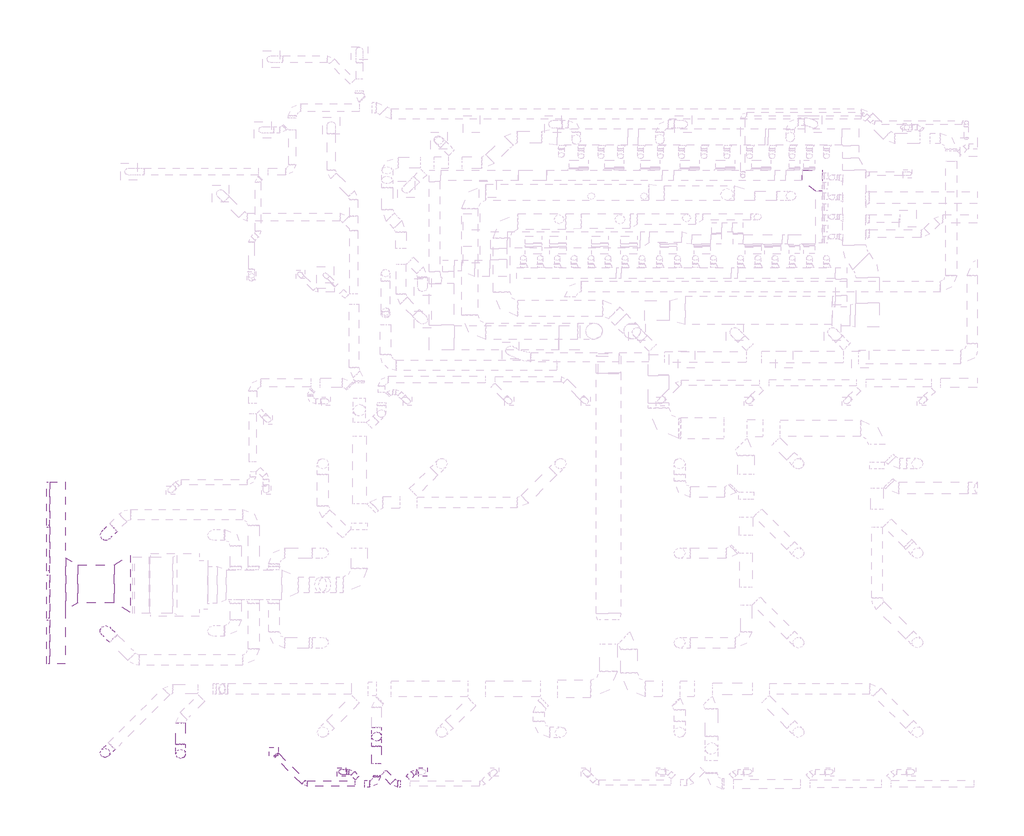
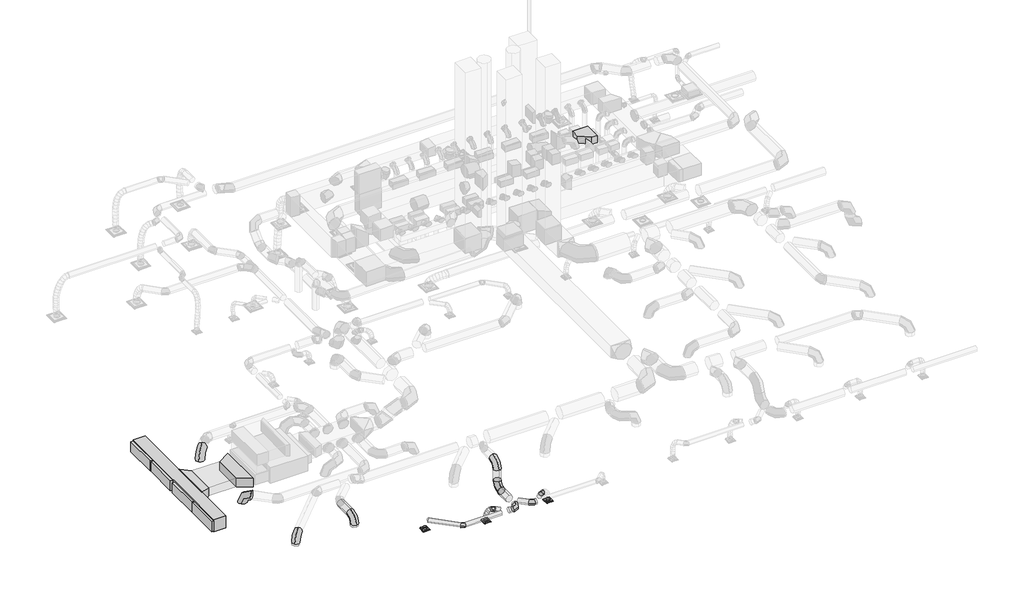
# One storey, part 1 of 33: 19 duct segments, 15 duct fittings, 7 air terminals.
"""IFC4 building model written with IfcOpenShell, lengths in millimetres."""

from ifc_helpers import new_model, si_unit, point, frame, frame_2d, origin, place, context, project, spatial, polyline, circle_curve, ellipse_curve, trimmed, segment, composite_curve, outline, extrude, transform, mapped, element, save
from ifc_brep_helpers import plane_surface, cylinder_surface, advanced_brep
from components import air_terminal_0721d01d, louver_louver_98c66642, louver1_louver_e51e7086, louver2_louver_de2036d3, custom_duct_fitting_1_custom_duct_fitting_1_5f1720c7, plenum_plenum_7b1017f3, rectangular_transition_angle_60_degree_48101eff, rectangular_transition_angle_60_degree_7abde47e, round_elbow_1_d_8aca8b6e, round_elbow_1_d_a89bf638, round_elbow_1_d_ea3dccb8, round_elbow_1_d_6fec3262, round_elbow_1_d_ab3aa7ba

model = new_model("IFC4")

# Units and contexts
model_context = context("Model", 3, world=origin())
ifc_project = project(units=[si_unit("LENGTHUNIT", "METRE", prefix="MILLI")], contexts=[model_context])

# Site, building, storey
site = spatial("IfcSite", under=ifc_project)
building = spatial("IfcBuilding", under=site)
storey = spatial("IfcBuildingStorey", under=building, Name="T.O. SLAB - 1ST", Elevation=-25.4)

# Air terminals
placement = place(None, origin())
air_terminal_shape = air_terminal_0721d01d(model_context)
element("IfcAirTerminal", 1, ObjectType="Titus-Round_Neck_Supply_Diffuser-PCS_Surface_Mount : PCS AA-08_12x12", at=placement, inside=storey, context=model_context, shape_type="MappedRepresentation", body=[
    mapped(air_terminal_shape, transform((11461.721449, 6517.7064145, 3022.6), x_axis=(1.0, 0.0, 0.0), y_axis=(0.0, -1.0, 0.0), z_axis=(0.0, 0.0, -1.0))),
])
element("IfcAirTerminal", 2, ObjectType="Titus-Round_Neck_Supply_Diffuser-PCS_Surface_Mount : PCS AA-08_12x12", at=placement, inside=storey, context=model_context, shape_type="MappedRepresentation", body=[
    mapped(air_terminal_shape, transform((8423.246449, 6517.7064145, 3022.6), x_axis=(1.0, 0.0, 0.0), y_axis=(0.0, -1.0, 0.0), z_axis=(0.0, 0.0, -1.0))),
])
element("IfcAirTerminal", 3, ObjectType="Titus-Round_Neck_Supply_Diffuser-PCS_Surface_Mount : PCS AA-08_12x12", at=placement, inside=storey, context=model_context, shape_type="MappedRepresentation", body=[
    mapped(air_terminal_shape, transform((5880.0982101, 7276.7425883, 3035.3), x_axis=(1.0, 0.0, 0.0), y_axis=(0.0, -1.0, 0.0), z_axis=(0.0, 0.0, -1.0))),
])
louver_louver_shape = louver_louver_98c66642(model_context)
element("IfcAirTerminal", 4, ObjectType="Louver : Louver", at=placement, inside=storey, context=model_context, shape_type="MappedRepresentation", body=[
    mapped(louver_louver_shape, transform((0.0, 0.0, 0.0), x_axis=(1.0, 0.0, 0.0), y_axis=(0.0, 1.0, 0.0), z_axis=(0.0, 0.0, 1.0))),
])
louver1_louver_shape = louver1_louver_e51e7086(model_context)
element("IfcAirTerminal", 5, ObjectType="Louver1 : Louver", at=placement, inside=storey, context=model_context, shape_type="MappedRepresentation", body=[
    mapped(louver1_louver_shape, transform((0.0, -1637.274587, 0.0), x_axis=(1.0, 0.0, 0.0), y_axis=(0.0, 1.0, 0.0), z_axis=(0.0, 0.0, 1.0))),
])
louver2_louver_shape = louver2_louver_de2036d3(model_context)
element("IfcAirTerminal", 6, ObjectType="Louver2 : Louver", at=placement, inside=storey, context=model_context, shape_type="MappedRepresentation", body=[
    mapped(louver2_louver_shape, transform((0.0, -3477.749174, 0.0), x_axis=(1.0, 0.0, 0.0), y_axis=(0.0, 1.0, 0.0), z_axis=(0.0, 0.0, 1.0))),
])
element("IfcAirTerminal", 7, ObjectType="Louver3 : Louver", at=placement, inside=storey, context=model_context, shape_type="MappedRepresentation", body=[
    mapped(louver1_louver_shape, transform((0.0, -5115.023761, 0.0), x_axis=(1.0, 0.0, 0.0), y_axis=(0.0, 1.0, 0.0), z_axis=(0.0, 0.0, 1.0))),
])

# Duct fittings
custom_duct_fitting_1_custom_duct_fitting_1_shape = custom_duct_fitting_1_custom_duct_fitting_1_5f1720c7(model_context)
element("IfcDuctFitting", 8, ObjectType="Custom Duct Fitting 1 : Custom Duct Fitting 1", at=placement, inside=storey, context=model_context, shape_type="MappedRepresentation", body=[
    mapped(custom_duct_fitting_1_custom_duct_fitting_1_shape, transform((0.0, 0.0, 3101.34), x_axis=(1.0, 0.0, 0.0), y_axis=(0.0, 1.0, 0.0), z_axis=(0.0, 0.0, 1.0))),
])
plenum_plenum_shape = plenum_plenum_7b1017f3(model_context)
element("IfcDuctFitting", 9, ObjectType="Plenum : Plenum", at=placement, inside=storey, context=model_context, shape_type="MappedRepresentation", body=[
    mapped(plenum_plenum_shape, transform((0.0, 0.0, 0.0), x_axis=(1.0, 0.0, 0.0), y_axis=(0.0, 1.0, 0.0), z_axis=(0.0, 0.0, 1.0))),
])
rectangular_transition_angle_60_degree_shape = rectangular_transition_angle_60_degree_48101eff(model_context)
element("IfcDuctFitting", 10, ObjectType="Rectangular Transition - Angle : 60 Degree", at=placement, inside=storey, context=model_context, shape_type="MappedRepresentation", body=[
    mapped(rectangular_transition_angle_60_degree_shape, transform((-97.2089062, 13560.980409, 4140.7207), x_axis=(1.0, 0.0, 0.0), y_axis=(0.0, 1.0, 0.0), z_axis=(0.0, 0.0, 1.0))),
])
rectangular_transition_angle_60_degree_2_shape = rectangular_transition_angle_60_degree_7abde47e(model_context)
element("IfcDuctFitting", 11, ObjectType="Rectangular Transition - Angle : 60 Degree", at=placement, inside=storey, context=model_context, shape_type="MappedRepresentation", body=[
    mapped(rectangular_transition_angle_60_degree_2_shape, transform((-1456.1089062, 13560.980409, 4140.7207), x_axis=(-1.0, 0.0, 0.0), y_axis=(0.0, -1.0, 0.0), z_axis=(0.0, 0.0, 1.0))),
])
round_elbow_1_d_shape = round_elbow_1_d_8aca8b6e(model_context)
element("IfcDuctFitting", 12, ObjectType="Round Elbow : 1 D", at=placement, inside=storey, context=model_context, shape_type="MappedRepresentation", body=[
    mapped(round_elbow_1_d_shape, transform((-408.1138019, 15386.0831162, 4324.35), x_axis=(0.0, 0.0, 1.0), y_axis=(0.7063958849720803, 0.7078169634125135, 0.0), z_axis=(-0.7078169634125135, 0.7063958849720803, 0.0))),
])
element("IfcDuctFitting", 13, ObjectType="Round Elbow : 1 D", at=placement, inside=storey, context=model_context, shape_type="MappedRepresentation", body=[
    mapped(round_elbow_1_d_shape, transform((-408.2942189, 11800.3071262, 4324.35), x_axis=(0.0, 0.0, 1.0), y_axis=(0.7068395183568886, -0.707373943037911, 0.0), z_axis=(0.707373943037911, 0.7068395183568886, 0.0))),
])
round_elbow_1_d_2_shape = round_elbow_1_d_a89bf638(model_context)
element("IfcDuctFitting", 14, ObjectType="Round Elbow : 1 D", at=placement, inside=storey, context=model_context, shape_type="MappedRepresentation", body=[
    mapped(round_elbow_1_d_2_shape, transform((9735.0963271, 7839.602261, 3530.6), x_axis=(0.0, 0.0, -1.0), y_axis=(0.0, -1.0, 0.0), z_axis=(-1.0, 0.0, 0.0))),
])
element("IfcDuctFitting", 15, ObjectType="Round Elbow : 1 D", at=placement, inside=storey, context=model_context, shape_type="MappedRepresentation", body=[
    mapped(round_elbow_1_d_2_shape, transform((9735.0963271, 7839.602261, 4826.0), x_axis=(0.0, 0.0, 1.0), y_axis=(0.0, 1.0, 0.0), z_axis=(-1.0, 0.0, 0.0))),
])
element("IfcDuctFitting", 16, ObjectType="Round Elbow : 1 D", at=placement, inside=storey, context=model_context, shape_type="MappedRepresentation", body=[
    mapped(round_elbow_1_d_2_shape, transform((2396.8487535, 7191.0099123, 4953.0), x_axis=(0.0, 0.0, 1.0), y_axis=(0.0, 1.0, 0.0), z_axis=(-1.0, 0.0, 0.0))),
])
element("IfcDuctFitting", 17, ObjectType="Round Elbow : 1 D", at=placement, inside=storey, context=model_context, shape_type="MappedRepresentation", body=[
    mapped(round_elbow_1_d_2_shape, transform((-434.8902913, 7230.9030374, 4953.0), x_axis=(0.0, 0.0, 1.0), y_axis=(0.7071220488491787, 0.7070915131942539, 0.0), z_axis=(-0.7070915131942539, 0.7071220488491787, 0.0))),
])
round_elbow_1_d_3_shape = round_elbow_1_d_ea3dccb8(model_context)
element("IfcDuctFitting", 18, ObjectType="Round Elbow : 1 D", at=placement, inside=storey, context=model_context, shape_type="MappedRepresentation", body=[
    mapped(round_elbow_1_d_3_shape, transform((10414.176964, 6075.9309734, 3530.6), x_axis=(0.7071067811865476, -0.7071067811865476, 0.0), y_axis=(0.7071067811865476, 0.7071067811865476, 0.0), z_axis=(0.0, 0.0, 1.0))),
])
round_elbow_1_d_4_shape = round_elbow_1_d_6fec3262(model_context)
element("IfcDuctFitting", 19, ObjectType="Round Elbow : 1 D", at=placement, inside=storey, context=model_context, shape_type="MappedRepresentation", body=[
    mapped(round_elbow_1_d_4_shape, transform((9735.0963271, 6075.9309734, 3530.6), x_axis=(1.0, 0.0, 0.0), y_axis=(0.0, 1.0, 0.0), z_axis=(0.0, 0.0, 1.0))),
])
round_elbow_1_d_5_shape = round_elbow_1_d_ab3aa7ba(model_context)
element("IfcDuctFitting", 20, ObjectType="Round Elbow : 1 D", at=placement, inside=storey, context=model_context, shape_type="MappedRepresentation", body=[
    mapped(round_elbow_1_d_5_shape, transform((11136.7800456, 6518.8479651, 3530.6), x_axis=(-1.0, 0.0, 0.0), y_axis=(0.0, -1.0, 0.0), z_axis=(0.0, 0.0, 1.0))),
])
element("IfcDuctFitting", 21, ObjectType="Round Elbow : 1 D", at=placement, inside=storey, context=model_context, shape_type="MappedRepresentation", body=[
    mapped(round_elbow_1_d_5_shape, transform((8777.1304706, 6518.8480728, 3530.6), x_axis=(-0.7071067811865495, 0.7071067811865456, 0.0), y_axis=(-0.7071067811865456, -0.7071067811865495, 0.0), z_axis=(0.0, 0.0, 1.0))),
])
element("IfcDuctFitting", 22, ObjectType="Round Elbow : 1 D", at=placement, inside=storey, context=model_context, shape_type="MappedRepresentation", body=[
    mapped(round_elbow_1_d_5_shape, transform((7055.5097913, 6075.9309734, 3530.6), x_axis=(0.707106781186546, -0.707106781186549, 0.0), y_axis=(0.707106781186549, 0.707106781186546, 0.0), z_axis=(0.0, 0.0, 1.0))),
])

# Duct segments
element("IfcDuctSegment", 23, ObjectType="Flex - Round", at=placement, inside=storey, context=model_context, shape_type="AdvancedBrep", body=[
    advanced_brep(
    [(8616.9212337, 6417.2480728, 3530.6), (8616.9212337, 6518.8480728, 3429.0), (8616.9212337, 6620.4480728, 3530.6), (8616.9212337, 6518.8480728, 3632.2), (8587.9854174, 6417.2480728, 3530.6), (8612.9627597, 6518.8480728, 3429.0), (8587.7735077, 6620.4480728, 3530.6), (8562.7961654, 6518.8480728, 3632.2), (8423.585901, 6416.1069816, 3117.85), (8321.6470161, 6517.3669625, 3117.85), (8422.9069971, 6619.3058474, 3117.85), (8524.845882, 6518.0458665, 3117.85), (8550.05889, 6417.163834, 3510.6576514), (8611.8833685, 6518.8456754, 3428.4324395), (8549.5512527, 6620.3631771, 3510.5021533), (8487.7267743, 6518.6813357, 3592.7273651), (8499.4931369, 6416.952731, 3457.5205689), (8584.0028442, 6518.7292792, 3399.1341571), (8498.8344702, 6620.1514436, 3457.2063614), (8414.3247629, 6518.3748955, 3515.5927733), (8463.4468803, 6416.6780792, 3381.4267275), (8558.9389432, 6518.5383066, 3346.2241273), (8462.7378573, 6619.8764081, 3381.0062175), (8367.2457945, 6518.0161807, 3416.2088177), (8440.0385149, 6416.4032155, 3292.608504), (8539.4846391, 6518.309872, 3272.4087754), (8439.3328966, 6619.6015844, 3292.2009123), (8339.8867725, 6517.694928, 3312.4006409), (8427.3827149, 6416.1916494, 3201.3339448), (8528.3012308, 6518.1229197, 3191.7532135), (8426.6947911, 6619.3903141, 3201.0539672), (8325.7762752, 6517.4590438, 3210.6346986), (8423.585901, 6416.1069816, 3122.5157221), (8524.845882, 6518.0458665, 3120.0234789), (8422.9069971, 6619.3058474, 3122.4229881), (8321.6470161, 6517.3669625, 3124.9152312)],
    [
        (0, 1, circle_curve(frame((8616.9212337, 6518.8480728, 3530.6), z_axis=(1.0, 0.0, 0.0), x_axis=(0.0, -1.0, 0.0)), 101.6)),
        (1, 2, circle_curve(frame((8616.9212337, 6518.8480728, 3530.6), z_axis=(1.0, 0.0, 0.0), x_axis=(0.0, -1.0, 0.0)), 101.6)),
        (2, 3, circle_curve(frame((8616.9212337, 6518.8480728, 3530.6), z_axis=(1.0, 0.0, 0.0), x_axis=(0.0, -1.0, 0.0)), 101.6)),
        (3, 0, circle_curve(frame((8616.9212337, 6518.8480728, 3530.6), z_axis=(1.0, 0.0, 0.0), x_axis=(0.0, -1.0, 0.0)), 101.6)),
        (0, 4),
        (4, 5, ellipse_curve(frame((8587.8794625, 6518.8480728, 3530.6), z_axis=(0.9708498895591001, 0.0010124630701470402, 0.23968618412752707), x_axis=(0.2396883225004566, -0.004100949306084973, -0.9708412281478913)), 104.6505758, 101.6)),
        (5, 1),
        (5, 6, ellipse_curve(frame((8587.8794625, 6518.8480728, 3530.6), z_axis=(0.9708498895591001, 0.0010124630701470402, 0.23968618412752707), x_axis=(0.2396883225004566, -0.004100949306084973, -0.9708412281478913)), 104.6505758, 101.6)),
        (6, 2),
        (6, 7, ellipse_curve(frame((8587.8794625, 6518.8480728, 3530.6), z_axis=(0.9708498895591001, 0.0010124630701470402, 0.23968618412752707), x_axis=(0.2396883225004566, -0.004100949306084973, -0.9708412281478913)), 104.6505758, 101.6)),
        (7, 3),
        (7, 4, ellipse_curve(frame((8587.8794625, 6518.8480728, 3530.6), z_axis=(0.9708498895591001, 0.0010124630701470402, 0.23968618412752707), x_axis=(0.2396883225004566, -0.004100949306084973, -0.9708412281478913)), 104.6505758, 101.6)),
        (8, 9, circle_curve(frame((8423.246449, 6517.7064145, 3117.85), z_axis=(0.0, 0.0, -1.0), x_axis=(0.003341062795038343, -0.9999944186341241, 0.0)), 101.6)),
        (9, 10, circle_curve(frame((8423.246449, 6517.7064145, 3117.85), z_axis=(0.0, 0.0, -1.0), x_axis=(0.003341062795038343, -0.9999944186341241, 0.0)), 101.6)),
        (10, 11, circle_curve(frame((8423.246449, 6517.7064145, 3117.85), z_axis=(0.0, 0.0, -1.0), x_axis=(0.003341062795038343, -0.9999944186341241, 0.0)), 101.6)),
        (11, 8, circle_curve(frame((8423.246449, 6517.7064145, 3117.85), z_axis=(0.0, 0.0, -1.0), x_axis=(0.003341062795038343, -0.9999944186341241, 0.0)), 101.6)),
        (4, 12),
        (12, 13, ellipse_curve(frame((8549.8050714, 6518.7635055, 3510.5799023), z_axis=(0.7978108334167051, 0.0024544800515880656, 0.6029028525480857), x_axis=(0.6029077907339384, -0.0028092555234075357, -0.7978059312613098)), 102.9656792, 101.6)),
        (13, 5),
        (13, 14, ellipse_curve(frame((8549.8050714, 6518.7635055, 3510.5799023), z_axis=(0.7978108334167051, 0.0024544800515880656, 0.6029028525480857), x_axis=(0.6029077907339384, -0.0028092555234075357, -0.7978059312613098)), 102.9656792, 101.6)),
        (14, 6),
        (14, 15, ellipse_curve(frame((8549.8050714, 6518.7635055, 3510.5799023), z_axis=(0.7978108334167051, 0.0024544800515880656, 0.6029028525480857), x_axis=(0.6029077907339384, -0.0028092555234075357, -0.7978059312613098)), 102.9656792, 101.6)),
        (15, 7),
        (15, 12, ellipse_curve(frame((8549.8050714, 6518.7635055, 3510.5799023), z_axis=(0.7978108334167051, 0.0024544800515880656, 0.6029028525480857), x_axis=(0.6029077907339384, -0.0028092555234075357, -0.7978059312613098)), 102.9656792, 101.6)),
        (12, 16),
        (16, 17, ellipse_curve(frame((8499.1638036, 6518.5520873, 3457.3634652), z_axis=(0.5658778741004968, 0.0031091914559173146, 0.8244832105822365), x_axis=(0.8244887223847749, -0.001211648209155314, -0.5658770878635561)), 102.899703, 101.6)),
        (17, 13),
        (17, 18, ellipse_curve(frame((8499.1638036, 6518.5520873, 3457.3634652), z_axis=(0.5658778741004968, 0.0031091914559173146, 0.8244832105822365), x_axis=(0.8244887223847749, -0.001211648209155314, -0.5658770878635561)), 102.899703, 101.6)),
        (18, 14),
        (18, 19, ellipse_curve(frame((8499.1638036, 6518.5520873, 3457.3634652), z_axis=(0.5658778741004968, 0.0031091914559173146, 0.8244832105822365), x_axis=(0.8244887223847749, -0.001211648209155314, -0.5658770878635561)), 102.899703, 101.6)),
        (19, 15),
        (19, 16, ellipse_curve(frame((8499.1638036, 6518.5520873, 3457.3634652), z_axis=(0.5658778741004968, 0.0031091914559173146, 0.8244832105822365), x_axis=(0.8244887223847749, -0.001211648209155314, -0.5658770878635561)), 102.899703, 101.6)),
        (16, 20),
        (20, 21, ellipse_curve(frame((8463.0923688, 6518.2772437, 3381.2164725), z_axis=(0.342937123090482, 0.003140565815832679, 0.9393531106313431), x_axis=(0.9393551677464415, 0.0014607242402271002, -0.342942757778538)), 102.0347896, 101.6)),
        (21, 17),
        (21, 22, ellipse_curve(frame((8463.0923688, 6518.2772437, 3381.2164725), z_axis=(0.342937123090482, 0.003140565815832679, 0.9393531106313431), x_axis=(0.9393551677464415, 0.0014607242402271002, -0.342942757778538)), 102.0347896, 101.6)),
        (22, 18),
        (22, 23, ellipse_curve(frame((8463.0923688, 6518.2772437, 3381.2164725), z_axis=(0.342937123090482, 0.003140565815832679, 0.9393531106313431), x_axis=(0.9393551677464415, 0.0014607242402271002, -0.342942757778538)), 102.0347896, 101.6)),
        (23, 19),
        (23, 20, ellipse_curve(frame((8463.0923688, 6518.2772437, 3381.2164725), z_axis=(0.342937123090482, 0.003140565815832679, 0.9393531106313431), x_axis=(0.9393551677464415, 0.0014607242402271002, -0.342942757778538)), 102.0347896, 101.6)),
        (20, 24),
        (24, 25, ellipse_curve(frame((8439.6857058, 6518.0024, 3292.4047082), z_axis=(0.19644905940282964, 0.0026489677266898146, 0.9805104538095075), x_axis=(0.9804943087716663, 0.00581197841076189, -0.1964615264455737)), 101.7829025, 101.6)),
        (25, 21),
        (25, 26, ellipse_curve(frame((8439.6857058, 6518.0024, 3292.4047082), z_axis=(0.19644905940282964, 0.0026489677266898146, 0.9805104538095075), x_axis=(0.9804943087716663, 0.00581197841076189, -0.1964615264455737)), 101.7829025, 101.6)),
        (26, 22),
        (26, 27, ellipse_curve(frame((8439.6857058, 6518.0024, 3292.4047082), z_axis=(0.19644905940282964, 0.0026489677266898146, 0.9805104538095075), x_axis=(0.9804943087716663, 0.00581197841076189, -0.1964615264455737)), 101.7829025, 101.6)),
        (27, 23),
        (27, 24, ellipse_curve(frame((8439.6857058, 6518.0024, 3292.4047082), z_axis=(0.19644905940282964, 0.0026489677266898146, 0.9805104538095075), x_axis=(0.9804943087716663, 0.00581197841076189, -0.1964615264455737)), 101.7829025, 101.6)),
        (24, 28),
        (28, 29, ellipse_curve(frame((8427.038753, 6517.7909818, 3201.193956), z_axis=(0.09282224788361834, 0.0016861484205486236, 0.9956812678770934), x_axis=(0.9955878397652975, 0.013645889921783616, -0.09283664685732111)), 101.7021605, 101.6)),
        (29, 25),
        (29, 30, ellipse_curve(frame((8427.038753, 6517.7909818, 3201.193956), z_axis=(0.09282224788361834, 0.0016861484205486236, 0.9956812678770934), x_axis=(0.9955878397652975, 0.013645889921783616, -0.09283664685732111)), 101.7021605, 101.6)),
        (30, 26),
        (30, 31, ellipse_curve(frame((8427.038753, 6517.7909818, 3201.193956), z_axis=(0.09282224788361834, 0.0016861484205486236, 0.9956812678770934), x_axis=(0.9955878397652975, 0.013645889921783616, -0.09283664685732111)), 101.7021605, 101.6)),
        (31, 27),
        (31, 28, ellipse_curve(frame((8427.038753, 6517.7909818, 3201.193956), z_axis=(0.09282224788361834, 0.0016861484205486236, 0.9956812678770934), x_axis=(0.9955878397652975, 0.013645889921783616, -0.09283664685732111)), 101.7021605, 101.6)),
        (28, 32),
        (32, 33, ellipse_curve(frame((8423.246449, 6517.7064145, 3122.4693551), z_axis=(0.0240649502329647, 0.0005366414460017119, 0.9997102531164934), x_axis=(0.9994617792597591, 0.02228770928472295, -0.024070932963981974)), 101.6294468, 101.6)),
        (33, 29),
        (33, 34, ellipse_curve(frame((8423.246449, 6517.7064145, 3122.4693551), z_axis=(0.0240649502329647, 0.0005366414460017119, 0.9997102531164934), x_axis=(0.9994617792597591, 0.02228770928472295, -0.024070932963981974)), 101.6294468, 101.6)),
        (34, 30),
        (34, 35, ellipse_curve(frame((8423.246449, 6517.7064145, 3122.4693551), z_axis=(0.0240649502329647, 0.0005366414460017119, 0.9997102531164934), x_axis=(0.9994617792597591, 0.02228770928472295, -0.024070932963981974)), 101.6294468, 101.6)),
        (35, 31),
        (35, 32, ellipse_curve(frame((8423.246449, 6517.7064145, 3122.4693551), z_axis=(0.0240649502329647, 0.0005366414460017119, 0.9997102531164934), x_axis=(0.9994617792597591, 0.02228770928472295, -0.024070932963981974)), 101.6294468, 101.6)),
        (32, 8),
        (11, 33),
        (10, 34),
        (9, 35),
    ],
    [
        plane_surface(frame((8616.9212337, 6518.8480728, 3429.0), z_axis=(1.0, 0.0, 0.0), x_axis=(0.0, -1.0, 0.0))),
        cylinder_surface(frame((8616.9212337, 6518.8480728, 3530.6), z_axis=(1.0, 0.0, 0.0), x_axis=(0.0, -1.0, 0.0)), 101.6),
        plane_surface(frame((8423.246449, 6416.1064145, 3117.85), z_axis=(0.0, 0.0, -1.0), x_axis=(-1.0, 0.0, 0.0))),
        cylinder_surface(frame((8587.8794625, 6518.8480728, 3530.6), z_axis=(0.8850990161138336, 0.001965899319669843, 0.46539861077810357), x_axis=(0.0019658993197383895, -0.9999979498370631, 0.0004853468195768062)), 101.6),
        cylinder_surface(frame((8549.8050714, 6518.7635055, 3510.5799023), z_axis=(0.6893592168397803, 0.002877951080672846, 0.7244139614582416), x_axis=(0.002912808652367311, -0.9999950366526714, 0.0012009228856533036)), 101.6),
        cylinder_surface(frame((8499.1638036, 6518.5520873, 3457.3634652), z_axis=(0.42810157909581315, 0.0032618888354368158, 0.9037247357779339), x_axis=(0.0034455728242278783, -0.9999921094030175, 0.0019771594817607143)), 101.6),
        cylinder_surface(frame((8463.0923688, 6518.2772437, 3381.2164725), z_axis=(0.2548500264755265, 0.0029924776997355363, 0.9669759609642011), x_axis=(0.003515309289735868, -0.9999914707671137, 0.00216817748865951)), 101.6),
        cylinder_surface(frame((8439.6857058, 6518.0024, 3292.4047082), z_axis=(0.1373420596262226, 0.0022959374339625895, 0.9905210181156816), x_axis=(0.003449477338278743, -0.9999923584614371, 0.0018395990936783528)), 101.6),
        cylinder_surface(frame((8427.038753, 6517.7909818, 3201.193956), z_axis=(0.04811595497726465, 0.001072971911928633, 0.9988411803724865), x_axis=(0.0033630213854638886, -0.9999939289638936, 0.0009122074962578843)), 101.6),
        cylinder_surface(frame((8423.246449, 6517.7064145, 3122.4693551), z_axis=(0.0, 0.0, 1.0000000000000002), x_axis=(0.003341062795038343, -0.9999944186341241, 0.0)), 101.6),
    ],
    [
        (0, [[1, 2, 3, 4]]),
        (1, [[-1, 5, 6, 7]]),
        (1, [[-2, -7, 8, 9]]),
        (1, [[-3, -9, 10, 11]]),
        (1, [[-4, -11, 12, -5]]),
        (2, [[13, 14, 15, 16]]),
        (3, [[-6, 17, 18, 19]]),
        (3, [[-8, -19, 20, 21]]),
        (3, [[-10, -21, 22, 23]]),
        (3, [[-12, -23, 24, -17]]),
        (4, [[-18, 25, 26, 27]]),
        (4, [[-20, -27, 28, 29]]),
        (4, [[-22, -29, 30, 31]]),
        (4, [[-24, -31, 32, -25]]),
        (5, [[-26, 33, 34, 35]]),
        (5, [[-28, -35, 36, 37]]),
        (5, [[-30, -37, 38, 39]]),
        (5, [[-32, -39, 40, -33]]),
        (6, [[-34, 41, 42, 43]]),
        (6, [[-36, -43, 44, 45]]),
        (6, [[-38, -45, 46, 47]]),
        (6, [[-40, -47, 48, -41]]),
        (7, [[-42, 49, 50, 51]]),
        (7, [[-44, -51, 52, 53]]),
        (7, [[-46, -53, 54, 55]]),
        (7, [[-48, -55, 56, -49]]),
        (8, [[-50, 57, 58, 59]]),
        (8, [[-52, -59, 60, 61]]),
        (8, [[-54, -61, 62, 63]]),
        (8, [[-56, -63, 64, -57]]),
        (9, [[-58, 65, -16, 66]]),
        (9, [[-60, -66, -15, 67]]),
        (9, [[-62, -67, -14, 68]]),
        (9, [[-64, -68, -13, -65]]),
    ],
),
])
element("IfcDuctSegment", 24, ObjectType="Flex - Round", at=placement, inside=storey, context=model_context, shape_type="AdvancedBrep", body=[
    advanced_brep(
    [(5926.54009, 7061.2165768, 3530.6), (5998.3821389, 7133.0586258, 3429.0), (6070.2241879, 7204.9006748, 3530.6), (5998.3821389, 7133.0586258, 3632.2), (5904.6626808, 7083.093986, 3530.6), (5959.4536318, 7171.987133, 3632.2), (6050.8548626, 7224.2700001, 3530.6), (5996.0639116, 7135.3768532, 3429.0)],
    [
        (0, 1, circle_curve(frame((5998.3821389, 7133.0586258, 3530.6), z_axis=(0.7071067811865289, -0.7071067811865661, 0.0), x_axis=(-0.7071067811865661, -0.7071067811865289, 0.0)), 101.6)),
        (1, 2, circle_curve(frame((5998.3821389, 7133.0586258, 3530.6), z_axis=(0.7071067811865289, -0.7071067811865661, 0.0), x_axis=(-0.7071067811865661, -0.7071067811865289, 0.0)), 101.6)),
        (2, 3, circle_curve(frame((5998.3821389, 7133.0586258, 3530.6), z_axis=(0.7071067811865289, -0.7071067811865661, 0.0), x_axis=(-0.7071067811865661, -0.7071067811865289, 0.0)), 101.6)),
        (3, 0, circle_curve(frame((5998.3821389, 7133.0586258, 3530.6), z_axis=(0.7071067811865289, -0.7071067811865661, 0.0), x_axis=(-0.7071067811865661, -0.7071067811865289, 0.0)), 101.6)),
        (4, 5, ellipse_curve(frame((5977.7587717, 7153.6819931, 3530.6), z_axis=(-0.6731568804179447, 0.6970750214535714, -0.24687290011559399), x_axis=(0.22180058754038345, -0.12814874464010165, -0.9666345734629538)), 104.8611536, 101.6)),
        (5, 6, ellipse_curve(frame((5977.7587717, 7153.6819931, 3530.6), z_axis=(-0.6731568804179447, 0.6970750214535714, -0.24687290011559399), x_axis=(0.22180058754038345, -0.12814874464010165, -0.9666345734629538)), 104.8611536, 101.6)),
        (6, 7, ellipse_curve(frame((5977.7587717, 7153.6819931, 3530.6), z_axis=(-0.6731568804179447, 0.6970750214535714, -0.24687290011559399), x_axis=(0.22180058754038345, -0.12814874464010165, -0.9666345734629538)), 104.8611536, 101.6)),
        (7, 4, ellipse_curve(frame((5977.7587717, 7153.6819931, 3530.6), z_axis=(-0.6731568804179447, 0.6970750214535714, -0.24687290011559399), x_axis=(0.22180058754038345, -0.12814874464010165, -0.9666345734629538)), 104.8611536, 101.6)),
        (0, 4),
        (7, 1),
        (6, 2),
        (5, 3),
    ],
    [
        plane_surface(frame((5998.3821389, 7133.0586258, 3632.2), z_axis=(0.707106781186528, -0.7071067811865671, 0.0), x_axis=(0.7071067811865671, 0.707106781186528, 0.0))),
        plane_surface(frame((6049.4328237, 7225.3560451, 3537.5440999), z_axis=(-0.6731568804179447, 0.6970750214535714, -0.24687290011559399), x_axis=(0.22180058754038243, -0.12814874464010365, -0.9666345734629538))),
        cylinder_surface(frame((5998.3821389, 7133.0586258, 3530.6), z_axis=(0.7071067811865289, -0.7071067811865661, 0.0), x_axis=(-0.7071067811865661, -0.7071067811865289, 0.0)), 101.6),
    ],
    [
        (0, [[1, 2, 3, 4]]),
        (1, [[5, 6, 7, 8]]),
        (2, [[-1, 9, -8, 10]]),
        (2, [[-2, -10, -7, 11]]),
        (2, [[-3, -11, -6, 12]]),
        (2, [[-4, -12, -5, -9]]),
    ],
),
])
element("IfcDuctSegment", 25, ObjectType="Mitered Elbows / Taps", at=placement, inside=storey, context=model_context, shape_type="SweptSolid", body=[
    extrude(outline(polyline([(-97.2089062, 14272.180409), (-97.2089062, 12849.780409), (-1456.1089062, 12849.780409), (-1456.1089062, 14272.180409), (-97.2089062, 14272.180409)])), frame((0.0, 0.0, 3924.8207), z_axis=(0.0, 0.0, 1.0), x_axis=(1.0, 0.0, 0.0)), (0.0, 0.0, 1.0), 431.8),
])
element("IfcDuctSegment", 26, ObjectType="Mitered Elbows / Taps", at=placement, inside=storey, context=model_context, shape_type="SweptSolid", body=[
    extrude(outline(polyline([(-1896.0498113, 14526.180409), (-1896.0498113, 12595.780409), (-1908.7652621, 12595.780409), (-1908.7652621, 14526.180409), (-1896.0498113, 14526.180409)])), frame((0.0, 0.0, 3835.9207), z_axis=(0.0, 0.0, 1.0), x_axis=(1.0, 0.0, 0.0)), (0.0, 0.0, 1.0), 609.6),
])
element("IfcDuctSegment", 27, ObjectType="Taps", at=placement, inside=storey, context=model_context, shape_type="SweptSolid", body=[
    extrude(outline(composite_curve([segment(trimmed(circle_curve(frame_2d((9735.0963271, 7839.602261)), 177.8), [point((9912.8963271, 7839.602261))], [point((9735.0963271, 7661.802261))], False, "CARTESIAN"), True, "CONTINUOUS"), segment(trimmed(circle_curve(frame_2d((9735.0963271, 7839.602261)), 177.8), [point((9735.0963271, 7661.802261))], [point((9557.2963271, 7839.602261))], False, "CARTESIAN"), True, "CONTINUOUS"), segment(trimmed(circle_curve(frame_2d((9735.0963271, 7839.602261)), 177.8), [point((9557.2963271, 7839.602261))], [point((9735.0963271, 8017.402261))], False, "CARTESIAN"), True, "CONTINUOUS"), segment(trimmed(circle_curve(frame_2d((9735.0963271, 7839.602261)), 177.8), [point((9735.0963271, 8017.402261))], [point((9912.8963271, 7839.602261))], False, "CARTESIAN"), True, "CONTINUOUS")], self_intersect=False)), frame((0.0, 0.0, 3886.2), z_axis=(0.0, 0.0, 1.0), x_axis=(1.0, 0.0, 0.0)), (0.0, 0.0, 1.0), 584.2),
])
element("IfcDuctSegment", 28, ObjectType="Taps", at=placement, inside=storey, context=model_context, shape_type="SweptSolid", body=[
    extrude(outline(composite_curve([segment(trimmed(circle_curve(frame_2d((3530.6, 9735.0963271)), 177.8), [point((3530.6, 9912.8963271))], [point((3708.4, 9735.0963271))], False, "CARTESIAN"), True, "CONTINUOUS"), segment(trimmed(circle_curve(frame_2d((3530.6, 9735.0963271)), 177.8), [point((3708.4, 9735.0963271))], [point((3530.6, 9557.2963271))], False, "CARTESIAN"), True, "CONTINUOUS"), segment(trimmed(circle_curve(frame_2d((3530.6, 9735.0963271)), 177.8), [point((3530.6, 9557.2963271))], [point((3352.8, 9735.0963271))], False, "CARTESIAN"), True, "CONTINUOUS"), segment(trimmed(circle_curve(frame_2d((3530.6, 9735.0963271)), 177.8), [point((3352.8, 9735.0963271))], [point((3530.6, 9912.8963271))], False, "CARTESIAN"), True, "CONTINUOUS")], self_intersect=False)), frame((0.0, 6813.7286045, 0.0), z_axis=(0.0, 1.0, 0.0), x_axis=(0.0, 0.0, 1.0)), (0.0, 0.0, 1.0), 670.2736565),
])
element("IfcDuctSegment", 29, ObjectType="Taps", at=placement, inside=storey, context=model_context, shape_type="SweptSolid", body=[
    extrude(outline(composite_curve([segment(trimmed(circle_curve(frame_2d((0.0, -127.0)), 127.0), [point((-127.0, -127.0))], [point((0.0, 0.0))], False, "CARTESIAN"), True, "CONTINUOUS"), segment(trimmed(circle_curve(frame_2d((0.0, -127.0)), 127.0), [point((0.0, 0.0))], [point((127.0, -127.0))], False, "CARTESIAN"), True, "CONTINUOUS"), segment(trimmed(circle_curve(frame_2d((0.0, -127.0)), 127.0), [point((127.0, -127.0))], [point((0.0, -254.0))], False, "CARTESIAN"), True, "CONTINUOUS"), segment(trimmed(circle_curve(frame_2d((0.0, -127.0)), 127.0), [point((0.0, -254.0))], [point((-127.0, -127.0))], False, "CARTESIAN"), True, "CONTINUOUS")], self_intersect=False)), frame((10339.7820864, 6150.325851, 3403.6), z_axis=(-0.7071067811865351, 0.70710678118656, 0.0), x_axis=(0.70710678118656, 0.7071067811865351, 0.0)), (0.0, 0.0, 1.0), 489.1061874),
])
element("IfcDuctSegment", 30, ObjectType="Taps", at=placement, inside=storey, context=model_context, shape_type="SweptSolid", body=[
    extrude(outline(composite_curve([segment(trimmed(circle_curve(frame_2d((6075.9309734, 3530.6)), 127.0), [point((5948.9309734, 3530.6))], [point((6075.9309734, 3657.6))], False, "CARTESIAN"), True, "CONTINUOUS"), segment(trimmed(circle_curve(frame_2d((6075.9309734, 3530.6)), 127.0), [point((6075.9309734, 3657.6))], [point((6202.9309734, 3530.6))], False, "CARTESIAN"), True, "CONTINUOUS"), segment(trimmed(circle_curve(frame_2d((6075.9309734, 3530.6)), 127.0), [point((6202.9309734, 3530.6))], [point((6075.9309734, 3403.6))], False, "CARTESIAN"), True, "CONTINUOUS"), segment(trimmed(circle_curve(frame_2d((6075.9309734, 3530.6)), 127.0), [point((6075.9309734, 3403.6))], [point((5948.9309734, 3530.6))], False, "CARTESIAN"), True, "CONTINUOUS")], self_intersect=False)), frame((10519.3872088, 0.0, 0.0), z_axis=(1.0, 0.0, 0.0), x_axis=(0.0, 1.0, 0.0)), (0.0, 0.0, 1.0), 103.509411),
])
element("IfcDuctSegment", 31, ObjectType="Taps", at=placement, inside=storey, context=model_context, shape_type="SweptSolid", body=[
    extrude(outline(composite_curve([segment(trimmed(circle_curve(frame_2d((3530.6, 9735.0963271)), 127.0), [point((3530.6, 9608.0963271))], [point((3403.6, 9735.0963271))], False, "CARTESIAN"), True, "CONTINUOUS"), segment(trimmed(circle_curve(frame_2d((3530.6, 9735.0963271)), 127.0), [point((3403.6, 9735.0963271))], [point((3530.6, 9862.0963271))], False, "CARTESIAN"), True, "CONTINUOUS"), segment(trimmed(circle_curve(frame_2d((3530.6, 9735.0963271)), 127.0), [point((3530.6, 9862.0963271))], [point((3657.6, 9735.0963271))], False, "CARTESIAN"), True, "CONTINUOUS"), segment(trimmed(circle_curve(frame_2d((3530.6, 9735.0963271)), 127.0), [point((3657.6, 9735.0963271))], [point((3530.6, 9608.0963271))], False, "CARTESIAN"), True, "CONTINUOUS")], self_intersect=False)), frame((0.0, 6329.9309734, 0.0), z_axis=(0.0, 1.0, 0.0), x_axis=(0.0, 0.0, 1.0)), (0.0, 0.0, 1.0), 61.5636427),
])
element("IfcDuctSegment", 32, ObjectType="Taps", at=placement, inside=storey, context=model_context, shape_type="SweptSolid", body=[
    extrude(outline(composite_curve([segment(trimmed(circle_curve(frame_2d((6075.9309734, 3530.6)), 101.6), [point((6177.5309734, 3530.6))], [point((6075.9309734, 3429.0))], False, "CARTESIAN"), True, "CONTINUOUS"), segment(trimmed(circle_curve(frame_2d((6075.9309734, 3530.6)), 101.6), [point((6075.9309734, 3429.0))], [point((5974.3309734, 3530.6))], False, "CARTESIAN"), True, "CONTINUOUS"), segment(trimmed(circle_curve(frame_2d((6075.9309734, 3530.6)), 101.6), [point((5974.3309734, 3530.6))], [point((6075.9309734, 3632.2))], False, "CARTESIAN"), True, "CONTINUOUS"), segment(trimmed(circle_curve(frame_2d((6075.9309734, 3530.6)), 101.6), [point((6075.9309734, 3632.2))], [point((6177.5309734, 3530.6))], False, "CARTESIAN"), True, "CONTINUOUS")], self_intersect=False)), frame((7139.6779872, 0.0, 0.0), z_axis=(1.0, 0.0, 0.0), x_axis=(0.0, 1.0, 0.0)), (0.0, 0.0, 1.0), 1780.8031487),
])
element("IfcDuctSegment", 33, ObjectType="Taps", at=placement, inside=storey, context=model_context, shape_type="SweptSolid", body=[
    extrude(outline(composite_curve([segment(trimmed(circle_curve(frame_2d((6075.9309734, 3530.6)), 127.0), [point((6202.9309734, 3530.6))], [point((6075.9309734, 3403.6))], False, "CARTESIAN"), True, "CONTINUOUS"), segment(trimmed(circle_curve(frame_2d((6075.9309734, 3530.6)), 127.0), [point((6075.9309734, 3403.6))], [point((5948.9309734, 3530.6))], False, "CARTESIAN"), True, "CONTINUOUS"), segment(trimmed(circle_curve(frame_2d((6075.9309734, 3530.6)), 127.0), [point((5948.9309734, 3530.6))], [point((6075.9309734, 3657.6))], False, "CARTESIAN"), True, "CONTINUOUS"), segment(trimmed(circle_curve(frame_2d((6075.9309734, 3530.6)), 127.0), [point((6075.9309734, 3657.6))], [point((6202.9309734, 3530.6))], False, "CARTESIAN"), True, "CONTINUOUS")], self_intersect=False)), frame((9291.0140041, 0.0, 0.0), z_axis=(1.0, 0.0, 0.0), x_axis=(0.0, 1.0, 0.0)), (0.0, 0.0, 1.0), 190.082323),
])
element("IfcDuctSegment", 34, ObjectType="Taps", at=placement, inside=storey, context=model_context, shape_type="SweptSolid", body=[
    extrude(outline(composite_curve([segment(trimmed(circle_curve(frame_2d((0.0, 101.6)), 101.6), [point((101.6, 101.6))], [point((0.0, 0.0))], False, "CARTESIAN"), True, "CONTINUOUS"), segment(trimmed(circle_curve(frame_2d((0.0, 101.6)), 101.6), [point((0.0, 0.0))], [point((-101.6, 101.6))], False, "CARTESIAN"), True, "CONTINUOUS"), segment(trimmed(circle_curve(frame_2d((0.0, 101.6)), 101.6), [point((-101.6, 101.6))], [point((0.0, 203.2))], False, "CARTESIAN"), True, "CONTINUOUS"), segment(trimmed(circle_curve(frame_2d((0.0, 101.6)), 101.6), [point((0.0, 203.2))], [point((101.6, 101.6))], False, "CARTESIAN"), True, "CONTINUOUS")], self_intersect=False)), frame((10906.7084635, 6288.776383, 3632.2), z_axis=(0.7071067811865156, 0.7071067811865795, 0.0), x_axis=(0.7071067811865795, -0.7071067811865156, 0.0)), (0.0, 0.0, 1.0), 241.2021559),
])
element("IfcDuctSegment", 35, ObjectType="Taps", at=placement, inside=storey, context=model_context, shape_type="SweptSolid", body=[
    extrude(outline(composite_curve([segment(trimmed(circle_curve(frame_2d((6518.8479651, 3530.6)), 101.6), [point((6417.2479651, 3530.6))], [point((6518.8479651, 3632.2))], False, "CARTESIAN"), True, "CONTINUOUS"), segment(trimmed(circle_curve(frame_2d((6518.8479651, 3530.6)), 101.6), [point((6518.8479651, 3632.2))], [point((6620.4479651, 3530.6))], False, "CARTESIAN"), True, "CONTINUOUS"), segment(trimmed(circle_curve(frame_2d((6518.8479651, 3530.6)), 101.6), [point((6620.4479651, 3530.6))], [point((6518.8479651, 3429.0))], False, "CARTESIAN"), True, "CONTINUOUS"), segment(trimmed(circle_curve(frame_2d((6518.8479651, 3530.6)), 101.6), [point((6518.8479651, 3429.0))], [point((6417.2479651, 3530.6))], False, "CARTESIAN"), True, "CONTINUOUS")], self_intersect=False)), frame((11220.9482415, 0.0, 0.0), z_axis=(1.0, 0.0, 0.0), x_axis=(0.0, 1.0, 0.0)), (0.0, 0.0, 1.0), 37.5734229),
])
element("IfcDuctSegment", 36, ObjectType="Taps", at=placement, inside=storey, context=model_context, shape_type="SweptSolid", body=[
    extrude(outline(composite_curve([segment(trimmed(circle_curve(frame_2d((0.0, 101.6)), 101.6), [point((101.6, 101.6))], [point((0.0, 0.0))], False, "CARTESIAN"), True, "CONTINUOUS"), segment(trimmed(circle_curve(frame_2d((0.0, 101.6)), 101.6), [point((0.0, 0.0))], [point((-101.6, 101.6))], False, "CARTESIAN"), True, "CONTINUOUS"), segment(trimmed(circle_curve(frame_2d((0.0, 101.6)), 101.6), [point((-101.6, 101.6))], [point((0.0, 203.2))], False, "CARTESIAN"), True, "CONTINUOUS"), segment(trimmed(circle_curve(frame_2d((0.0, 101.6)), 101.6), [point((0.0, 203.2))], [point((101.6, 101.6))], False, "CARTESIAN"), True, "CONTINUOUS")], self_intersect=False)), frame((9007.2021604, 6288.776383, 3632.2), z_axis=(-0.707106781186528, 0.7071067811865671, 0.0), x_axis=(0.7071067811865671, 0.707106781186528, 0.0)), (0.0, 0.0, 1.0), 241.2023082),
])
element("IfcDuctSegment", 37, ObjectType="Taps", at=placement, inside=storey, context=model_context, shape_type="SweptSolid", body=[
    extrude(outline(composite_curve([segment(trimmed(circle_curve(frame_2d((6518.8480728, 3530.6)), 101.6), [point((6620.4480728, 3530.6))], [point((6518.8480728, 3429.0))], False, "CARTESIAN"), True, "CONTINUOUS"), segment(trimmed(circle_curve(frame_2d((6518.8480728, 3530.6)), 101.6), [point((6518.8480728, 3429.0))], [point((6417.2480728, 3530.6))], False, "CARTESIAN"), True, "CONTINUOUS"), segment(trimmed(circle_curve(frame_2d((6518.8480728, 3530.6)), 101.6), [point((6417.2480728, 3530.6))], [point((6518.8480728, 3632.2))], False, "CARTESIAN"), True, "CONTINUOUS"), segment(trimmed(circle_curve(frame_2d((6518.8480728, 3530.6)), 101.6), [point((6518.8480728, 3632.2))], [point((6620.4480728, 3530.6))], False, "CARTESIAN"), True, "CONTINUOUS")], self_intersect=False)), frame((8616.9212337, 0.0, 0.0), z_axis=(1.0, 0.0, 0.0), x_axis=(0.0, 1.0, 0.0)), (0.0, 0.0, 1.0), 76.0410411),
])
element("IfcDuctSegment", 38, ObjectType="Taps", at=placement, inside=storey, context=model_context, shape_type="SweptSolid", body=[
    extrude(outline(composite_curve([segment(trimmed(circle_curve(frame_2d((0.0, 101.6)), 101.6), [point((101.6, 101.6))], [point((0.0, 0.0))], False, "CARTESIAN"), True, "CONTINUOUS"), segment(trimmed(circle_curve(frame_2d((0.0, 101.6)), 101.6), [point((0.0, 0.0))], [point((-101.6, 101.6))], False, "CARTESIAN"), True, "CONTINUOUS"), segment(trimmed(circle_curve(frame_2d((0.0, 101.6)), 101.6), [point((-101.6, 101.6))], [point((0.0, 203.2))], False, "CARTESIAN"), True, "CONTINUOUS"), segment(trimmed(circle_curve(frame_2d((0.0, 101.6)), 101.6), [point((0.0, 203.2))], [point((101.6, 101.6))], False, "CARTESIAN"), True, "CONTINUOUS")], self_intersect=False)), frame((6995.9938893, 6135.4468755, 3632.2), z_axis=(-0.7071067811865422, 0.7071067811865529, 0.0), x_axis=(0.7071067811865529, 0.7071067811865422, 0.0)), (0.0, 0.0, 1.0), 1410.8360673),
])
element("IfcDuctSegment", 39, ObjectType="Taps", at=placement, inside=storey, context=model_context, shape_type="SweptSolid", body=[
    extrude(outline(composite_curve([segment(trimmed(circle_curve(frame_2d((4953.0, 2396.8487535)), 177.8), [point((4953.0, 2219.0487535))], [point((4775.2, 2396.8487535))], False, "CARTESIAN"), True, "CONTINUOUS"), segment(trimmed(circle_curve(frame_2d((4953.0, 2396.8487535)), 177.8), [point((4775.2, 2396.8487535))], [point((4953.0, 2574.6487535))], False, "CARTESIAN"), True, "CONTINUOUS"), segment(trimmed(circle_curve(frame_2d((4953.0, 2396.8487535)), 177.8), [point((4953.0, 2574.6487535))], [point((5130.8, 2396.8487535))], False, "CARTESIAN"), True, "CONTINUOUS"), segment(trimmed(circle_curve(frame_2d((4953.0, 2396.8487535)), 177.8), [point((5130.8, 2396.8487535))], [point((4953.0, 2219.0487535))], False, "CARTESIAN"), True, "CONTINUOUS")], self_intersect=False)), frame((0.0, 7546.6099123, 0.0), z_axis=(0.0, 1.0, 0.0), x_axis=(0.0, 0.0, 1.0)), (0.0, 0.0, 1.0), 815.5788084),
])
element("IfcDuctSegment", 40, ObjectType="Taps", at=placement, inside=storey, context=model_context, shape_type="SweptSolid", body=[
    extrude(outline(composite_curve([segment(trimmed(circle_curve(frame_2d((2396.8487535, 7191.0099123)), 177.8), [point((2396.8487535, 7368.8099123))], [point((2574.6487535, 7191.0099123))], False, "CARTESIAN"), True, "CONTINUOUS"), segment(trimmed(circle_curve(frame_2d((2396.8487535, 7191.0099123)), 177.8), [point((2574.6487535, 7191.0099123))], [point((2396.8487535, 7013.2099123))], False, "CARTESIAN"), True, "CONTINUOUS"), segment(trimmed(circle_curve(frame_2d((2396.8487535, 7191.0099123)), 177.8), [point((2396.8487535, 7013.2099123))], [point((2219.0487535, 7191.0099123))], False, "CARTESIAN"), True, "CONTINUOUS"), segment(trimmed(circle_curve(frame_2d((2396.8487535, 7191.0099123)), 177.8), [point((2219.0487535, 7191.0099123))], [point((2396.8487535, 7368.8099123))], False, "CARTESIAN"), True, "CONTINUOUS")], self_intersect=False)), frame((0.0, 0.0, 4495.8), z_axis=(0.0, 0.0, 1.0), x_axis=(1.0, 0.0, 0.0)), (0.0, 0.0, 1.0), 101.6),
])
element("IfcDuctSegment", 41, ObjectType="Taps", at=placement, inside=storey, context=model_context, shape_type="SweptSolid", body=[
    extrude(outline(composite_curve([segment(trimmed(circle_curve(frame_2d((-434.8848622, 7230.8976081)), 177.8), [point((-257.0848622, 7230.8976081))], [point((-434.8848622, 7053.0976081))], False, "CARTESIAN"), True, "CONTINUOUS"), segment(trimmed(circle_curve(frame_2d((-434.8848622, 7230.8976081)), 177.8), [point((-434.8848622, 7053.0976081))], [point((-612.6848622, 7230.8976081))], False, "CARTESIAN"), True, "CONTINUOUS"), segment(trimmed(circle_curve(frame_2d((-434.8848622, 7230.8976081)), 177.8), [point((-612.6848622, 7230.8976081))], [point((-434.8848622, 7408.6976081))], False, "CARTESIAN"), True, "CONTINUOUS"), segment(trimmed(circle_curve(frame_2d((-434.8848622, 7230.8976081)), 177.8), [point((-434.8848622, 7408.6976081))], [point((-257.0848622, 7230.8976081))], False, "CARTESIAN"), True, "CONTINUOUS")], self_intersect=False)), frame((0.0, 0.0, 4495.8), z_axis=(0.0, 0.0, 1.0), x_axis=(1.0, 0.0, 0.0)), (0.0, 0.0, 1.0), 101.6),
])

save(model, "model.ifc")
